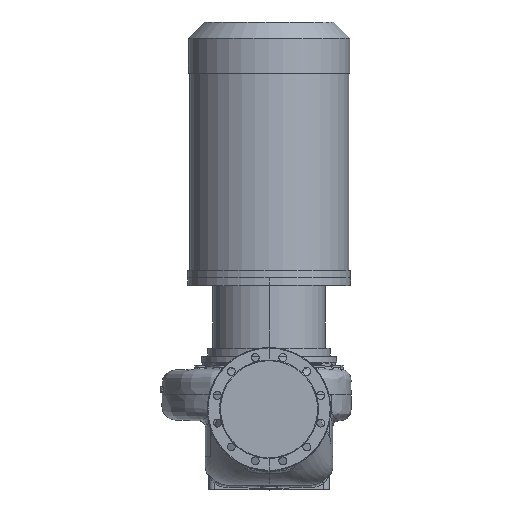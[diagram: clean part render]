
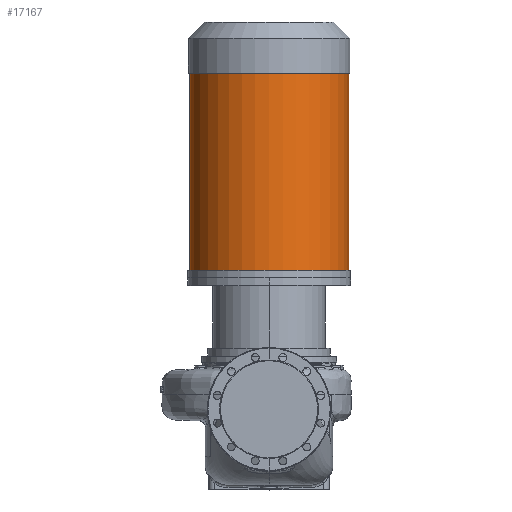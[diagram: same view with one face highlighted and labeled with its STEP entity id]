
A CAD part, top view. The second image highlights one B-rep face of the part: STEP entity #17167.
In plain terms, the highlighted cylindrical face has radius 219.5 mm (diameter 439 mm), a partial arc.
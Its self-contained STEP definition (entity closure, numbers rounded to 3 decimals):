
#5794 = ORIENTED_EDGE ( 'NONE', *, *, #13256, .F. ) ;
#6862 = VERTEX_POINT ( 'NONE', #32776 ) ;
#7844 = DIRECTION ( 'NONE',  ( 0., -1., 0. ) ) ;
#8293 = AXIS2_PLACEMENT_3D ( 'NONE', #41387, #78899, #41912 ) ;
#8469 = CARTESIAN_POINT ( 'NONE',  ( 0., 383.8, 0. ) ) ;
#9214 = ORIENTED_EDGE ( 'NONE', *, *, #45622, .T. ) ;
#11319 = CARTESIAN_POINT ( 'NONE',  ( 0., 363.8, 0. ) ) ;
#12983 = VERTEX_POINT ( 'NONE', #44071 ) ;
#13256 = EDGE_CURVE ( 'NONE', #24770, #12983, #64447, .T. ) ;
#16030 = DIRECTION ( 'NONE',  ( 0., -1., 0. ) ) ;
#17167 = ADVANCED_FACE ( 'NONE', ( #36026 ), #23378, .T. ) ;
#19679 = VECTOR ( 'NONE', #58498, 1000. ) ;
#23378 = CYLINDRICAL_SURFACE ( 'NONE', #53360, 219.5 ) ;
#24699 = DIRECTION ( 'NONE',  ( -1., 0., 0. ) ) ;
#24770 = VERTEX_POINT ( 'NONE', #44153 ) ;
#28725 = ORIENTED_EDGE ( 'NONE', *, *, #72239, .F. ) ;
#28961 = EDGE_LOOP ( 'NONE', ( #5794, #9214, #49287, #28725 ) ) ;
#30374 = VECTOR ( 'NONE', #7844, 1000. ) ;
#32776 = CARTESIAN_POINT ( 'NONE',  ( -219.5, 927.8, 0. ) ) ;
#35928 = EDGE_CURVE ( 'NONE', #6862, #59021, #73261, .T. ) ;
#36026 = FACE_OUTER_BOUND ( 'NONE', #28961, .T. ) ;
#41387 = CARTESIAN_POINT ( 'NONE',  ( 0., 927.8, 0. ) ) ;
#41912 = DIRECTION ( 'NONE',  ( -1., 0., 0. ) ) ;
#44071 = CARTESIAN_POINT ( 'NONE',  ( 219.5, 383.8, 0. ) ) ;
#44153 = CARTESIAN_POINT ( 'NONE',  ( 219.5, 927.8, 0. ) ) ;
#45622 = EDGE_CURVE ( 'NONE', #24770, #6862, #65251, .T. ) ;
#48409 = CIRCLE ( 'NONE', #63922, 219.5 ) ;
#49287 = ORIENTED_EDGE ( 'NONE', *, *, #35928, .T. ) ;
#52848 = DIRECTION ( 'NONE',  ( -1., 0., 0. ) ) ;
#53360 = AXIS2_PLACEMENT_3D ( 'NONE', #11319, #54910, #24699 ) ;
#54910 = DIRECTION ( 'NONE',  ( 0., -1., 0. ) ) ;
#58498 = DIRECTION ( 'NONE',  ( 0., -1., 0. ) ) ;
#59021 = VERTEX_POINT ( 'NONE', #63918 ) ;
#63640 = CARTESIAN_POINT ( 'NONE',  ( 219.5, 363.8, 0. ) ) ;
#63918 = CARTESIAN_POINT ( 'NONE',  ( -219.5, 383.8, 0. ) ) ;
#63922 = AXIS2_PLACEMENT_3D ( 'NONE', #8469, #16030, #52848 ) ;
#64447 = LINE ( 'NONE', #63640, #30374 ) ;
#65251 = CIRCLE ( 'NONE', #8293, 219.5 ) ;
#72239 = EDGE_CURVE ( 'NONE', #12983, #59021, #48409, .T. ) ;
#73261 = LINE ( 'NONE', #77257, #19679 ) ;
#77257 = CARTESIAN_POINT ( 'NONE',  ( -219.5, 363.8, 0. ) ) ;
#78899 = DIRECTION ( 'NONE',  ( 0., -1., 0. ) ) ;
